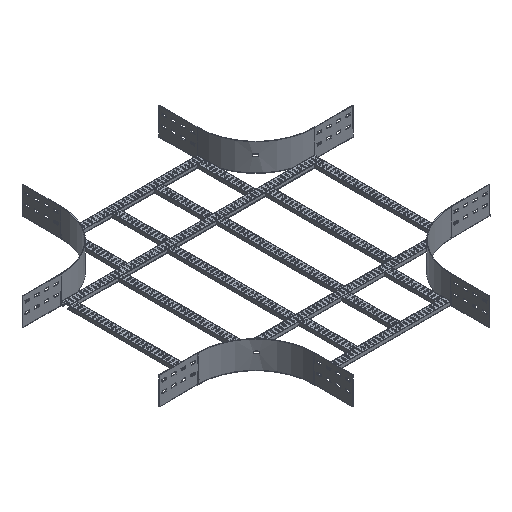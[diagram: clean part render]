
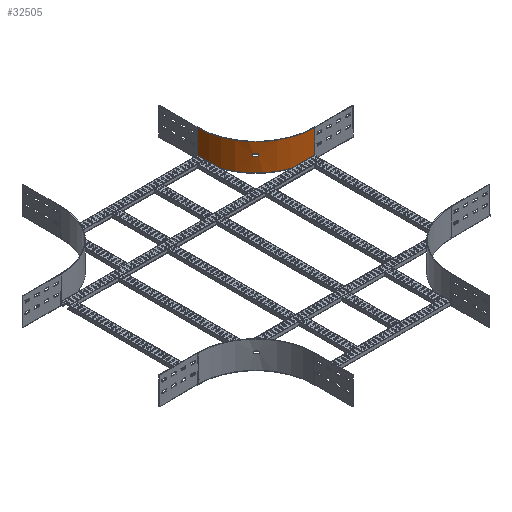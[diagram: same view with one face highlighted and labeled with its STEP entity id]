
A CAD part, isometric view. The second image highlights one B-rep face of the part: STEP entity #32505.
In plain terms, the highlighted cylindrical face has radius 303 mm (diameter 606 mm), a partial arc.
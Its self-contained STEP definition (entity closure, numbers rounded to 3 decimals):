
#825=FACE_BOUND('',#4741,.T.);
#1525=CYLINDRICAL_SURFACE('',#34198,303.);
#1592=CIRCLE('',#34190,303.);
#1597=CIRCLE('',#34197,303.);
#1598=CIRCLE('',#34199,303.);
#1599=CIRCLE('',#34200,303.);
#3085=FACE_OUTER_BOUND('',#4740,.T.);
#4740=EDGE_LOOP('',(#21988,#21989,#21990,#21991));
#4741=EDGE_LOOP('',(#21992,#21993,#21994,#21995));
#7095=LINE('',#45078,#10459);
#7097=LINE('',#45084,#10461);
#7102=LINE('',#45108,#10466);
#7103=LINE('',#45111,#10467);
#10459=VECTOR('',#36749,304.8);
#10461=VECTOR('',#36753,304.8);
#10466=VECTOR('',#36780,304.8);
#10467=VECTOR('',#36783,304.8);
#13820=VERTEX_POINT('',#45071);
#13823=VERTEX_POINT('',#45076);
#13825=VERTEX_POINT('',#45081);
#13826=VERTEX_POINT('',#45083);
#13832=VERTEX_POINT('',#45104);
#13833=VERTEX_POINT('',#45105);
#13834=VERTEX_POINT('',#45107);
#13835=VERTEX_POINT('',#45109);
#17071=EDGE_CURVE('',#13823,#13820,#7095,.T.);
#17073=EDGE_CURVE('',#13825,#13826,#7097,.T.);
#17076=EDGE_CURVE('',#13820,#13825,#1592,.T.);
#17083=EDGE_CURVE('',#13826,#13823,#1597,.T.);
#17084=EDGE_CURVE('',#13832,#13833,#1598,.T.);
#17085=EDGE_CURVE('',#13833,#13834,#7102,.T.);
#17086=EDGE_CURVE('',#13834,#13835,#1599,.T.);
#17087=EDGE_CURVE('',#13835,#13832,#7103,.T.);
#21988=ORIENTED_EDGE('',*,*,#17071,.F.);
#21989=ORIENTED_EDGE('',*,*,#17083,.F.);
#21990=ORIENTED_EDGE('',*,*,#17073,.F.);
#21991=ORIENTED_EDGE('',*,*,#17076,.F.);
#21992=ORIENTED_EDGE('',*,*,#17084,.T.);
#21993=ORIENTED_EDGE('',*,*,#17085,.T.);
#21994=ORIENTED_EDGE('',*,*,#17086,.T.);
#21995=ORIENTED_EDGE('',*,*,#17087,.T.);
#32505=ADVANCED_FACE('',(#3085,#825),#1525,.T.);
#34190=AXIS2_PLACEMENT_3D('',#45089,#36758,#36759);
#34197=AXIS2_PLACEMENT_3D('',#45102,#36774,#36775);
#34198=AXIS2_PLACEMENT_3D('',#45103,#36776,#36777);
#34199=AXIS2_PLACEMENT_3D('',#45106,#36778,#36779);
#34200=AXIS2_PLACEMENT_3D('',#45110,#36781,#36782);
#36749=DIRECTION('',(0.,0.,1.));
#36753=DIRECTION('',(0.,0.,-1.));
#36758=DIRECTION('center_axis',(0.,0.,1.));
#36759=DIRECTION('ref_axis',(-1.,0.,0.));
#36774=DIRECTION('center_axis',(0.,0.,-1.));
#36775=DIRECTION('ref_axis',(-1.,0.,0.));
#36776=DIRECTION('center_axis',(0.,0.,1.));
#36777=DIRECTION('ref_axis',(-1.,0.,0.));
#36778=DIRECTION('center_axis',(0.,0.,1.));
#36779=DIRECTION('ref_axis',(-1.,0.,0.));
#36780=DIRECTION('',(0.,0.,-1.));
#36781=DIRECTION('center_axis',(0.,0.,-1.));
#36782=DIRECTION('ref_axis',(-1.,0.,0.));
#36783=DIRECTION('',(0.,0.,1.));
#45071=CARTESIAN_POINT('',(352.5,655.5,71.));
#45076=CARTESIAN_POINT('',(352.5,655.5,-71.));
#45078=CARTESIAN_POINT('',(352.5,655.5,-71.));
#45081=CARTESIAN_POINT('',(655.5,352.5,71.));
#45083=CARTESIAN_POINT('',(655.5,352.5,-71.));
#45084=CARTESIAN_POINT('',(655.5,352.5,71.));
#45089=CARTESIAN_POINT('Origin',(655.5,655.5,71.));
#45102=CARTESIAN_POINT('Origin',(655.5,655.5,-71.));
#45103=CARTESIAN_POINT('Origin',(655.5,655.5,0.));
#45104=CARTESIAN_POINT('',(433.588,449.19,15.5));
#45105=CARTESIAN_POINT('',(449.142,433.632,15.5));
#45106=CARTESIAN_POINT('Origin',(655.5,655.5,15.5));
#45107=CARTESIAN_POINT('',(449.142,433.632,4.5));
#45108=CARTESIAN_POINT('',(449.142,433.632,15.5));
#45109=CARTESIAN_POINT('',(433.588,449.19,4.5));
#45110=CARTESIAN_POINT('Origin',(655.5,655.5,4.5));
#45111=CARTESIAN_POINT('',(433.588,449.19,4.5));
